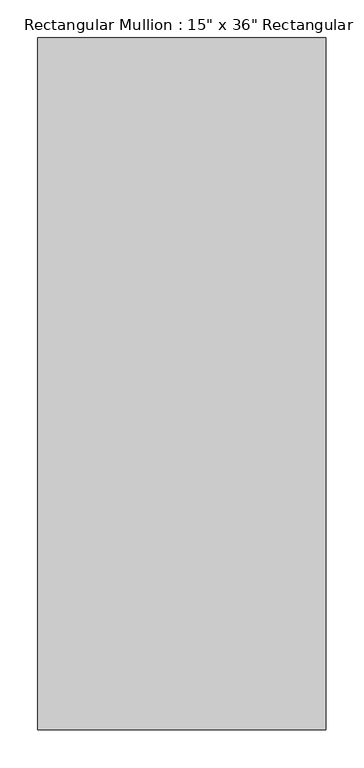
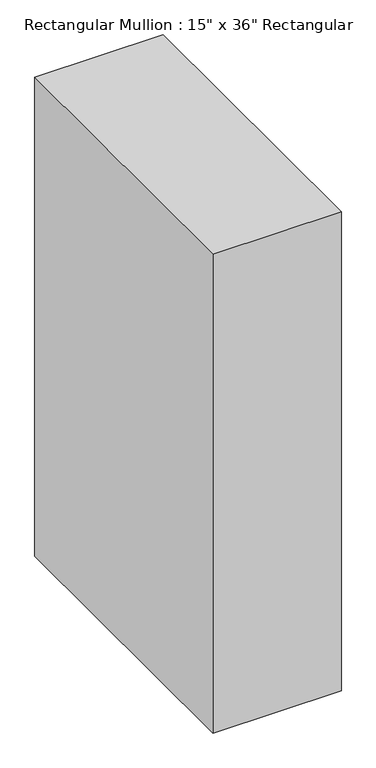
"""IFC4 building model written with IfcOpenShell, lengths in millimetres: member geometry."""

from ifc_helpers import new_model, si_unit, frame, origin, place, context, project, spatial, polyline, outline, extrude, source, transform, mapped, element, save


def member_64561521(model_context):
    return source(origin(), model_context, "Body", "SweptSolid", [
        extrude(outline(polyline([(0.0, 850.9), (0.0, -63.5), (-381.0, -63.5), (-381.0, 850.9), (0.0, 850.9)])), frame((0.0, 0.0, -1500.0), z_axis=(0.0, 0.0, 1.0), x_axis=(1.0, 0.0, 0.0)), (0.0, 0.0, 1.0), 1500.0),
    ])


if __name__ == "__main__":
    model = new_model("IFC4")
    model_context = context("Model", 3, world=origin())
    ifc_project = project(units=[si_unit("LENGTHUNIT", "METRE", prefix="MILLI")], contexts=[model_context])
    site = spatial("IfcSite", under=ifc_project)
    building = spatial("IfcBuilding", under=site)
    placement = place(None, origin())
    member_shape = member_64561521(model_context)
    element("IfcMember", 1, ObjectType="Rectangular Mullion : 15\" x 36\" Rectangular", at=placement, inside=building, context=model_context, shape_type="MappedRepresentation", body=[
        mapped(member_shape, transform((0.0, 0.0, 0.0), x_axis=(1.0, 0.0, 0.0), y_axis=(0.0, 1.0, 0.0), z_axis=(0.0, 0.0, 1.0))),
    ])
    save(model, "model.ifc")
